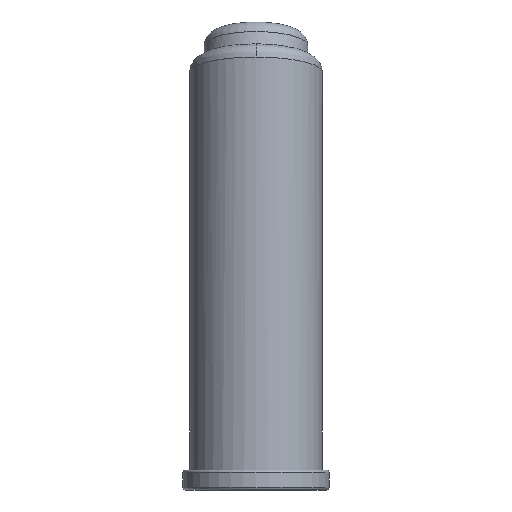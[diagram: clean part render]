
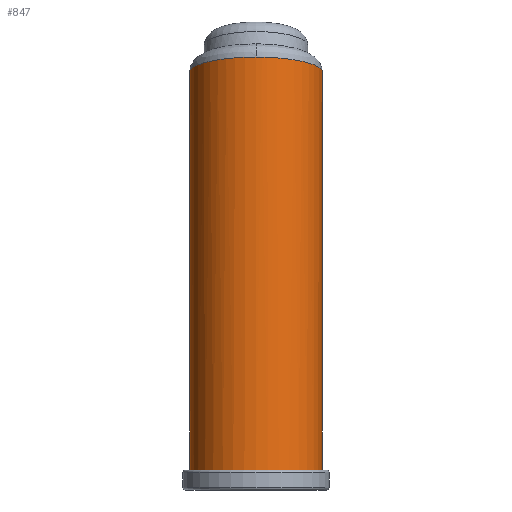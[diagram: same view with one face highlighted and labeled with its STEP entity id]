
A CAD part, front view. The second image highlights one B-rep face of the part: STEP entity #847.
In plain terms, the highlighted cylindrical face has radius 5 mm (diameter 10 mm), a partial arc.
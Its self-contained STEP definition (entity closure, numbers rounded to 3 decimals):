
#2 = ORIENTED_EDGE ( 'NONE', *, *, #511, .T. ) ;
#53 = EDGE_CURVE ( 'NONE', #1504, #2639, #996, .T. ) ;
#62 = CARTESIAN_POINT ( 'NONE',  ( -5., 0., 26. ) ) ;
#65 = CARTESIAN_POINT ( 'NONE',  ( -5., 0., 31.445 ) ) ;
#250 = VECTOR ( 'NONE', #2723, 1000. ) ;
#409 = CARTESIAN_POINT ( 'NONE',  ( 0., 0., 26. ) ) ;
#511 = EDGE_CURVE ( 'NONE', #1823, #950, #1549, .T. ) ;
#523 = CARTESIAN_POINT ( 'NONE',  ( 5., 0., 26. ) ) ;
#569 = AXIS2_PLACEMENT_3D ( 'NONE', #409, #612, #2188 ) ;
#612 = DIRECTION ( 'NONE',  ( 0., 0., -1. ) ) ;
#735 = CARTESIAN_POINT ( 'NONE',  ( 5., -2.929, 32.117 ) ) ;
#847 = ADVANCED_FACE ( 'NONE', ( #1233 ), #1230, .T. ) ;
#892 = ORIENTED_EDGE ( 'NONE', *, *, #2201, .T. ) ;
#905 = DIRECTION ( 'NONE',  ( 0., 0., -1. ) ) ;
#940 = CARTESIAN_POINT ( 'NONE',  ( 0., -5., 32.592 ) ) ;
#950 = VERTEX_POINT ( 'NONE', #1552 ) ;
#996 =( BOUNDED_CURVE ( )  B_SPLINE_CURVE ( 3, ( #1405, #735, #2534, #1632 ),
 .UNSPECIFIED., .F., .F. ) 
 B_SPLINE_CURVE_WITH_KNOTS ( ( 4, 4 ),
 ( 4.712, 6.283 ),
 .UNSPECIFIED. ) 
 CURVE ( )  GEOMETRIC_REPRESENTATION_ITEM ( )  RATIONAL_B_SPLINE_CURVE ( ( 1., 0.805, 0.805, 1. ) ) 
 REPRESENTATION_ITEM ( '' )  );
#1021 = DIRECTION ( 'NONE',  ( 0., 0., 1. ) ) ;
#1040 = EDGE_CURVE ( 'NONE', #2639, #1823, #1929, .T. ) ;
#1058 = ORIENTED_EDGE ( 'NONE', *, *, #2702, .F. ) ;
#1088 = CARTESIAN_POINT ( 'NONE',  ( 0., -5., 32.592 ) ) ;
#1230 = CYLINDRICAL_SURFACE ( 'NONE', #569, 5. ) ;
#1233 = FACE_OUTER_BOUND ( 'NONE', #2346, .T. ) ;
#1244 = DIRECTION ( 'NONE',  ( 1., 0., 0. ) ) ;
#1405 = CARTESIAN_POINT ( 'NONE',  ( 5., 0., 31.445 ) ) ;
#1473 = CARTESIAN_POINT ( 'NONE',  ( 0., 0., 1.5 ) ) ;
#1504 = VERTEX_POINT ( 'NONE', #1568 ) ;
#1549 = LINE ( 'NONE', #62, #2066 ) ;
#1552 = CARTESIAN_POINT ( 'NONE',  ( -5., 0., 1.5 ) ) ;
#1568 = CARTESIAN_POINT ( 'NONE',  ( 5., 0., 31.445 ) ) ;
#1604 = CARTESIAN_POINT ( 'NONE',  ( -2.929, -5., 32.592 ) ) ;
#1632 = CARTESIAN_POINT ( 'NONE',  ( 0., -5., 32.592 ) ) ;
#1823 = VERTEX_POINT ( 'NONE', #2478 ) ;
#1929 =( BOUNDED_CURVE ( )  B_SPLINE_CURVE ( 3, ( #940, #1604, #2483, #65 ),
 .UNSPECIFIED., .F., .F. ) 
 B_SPLINE_CURVE_WITH_KNOTS ( ( 4, 4 ),
 ( 0., 1.571 ),
 .UNSPECIFIED. ) 
 CURVE ( )  GEOMETRIC_REPRESENTATION_ITEM ( )  RATIONAL_B_SPLINE_CURVE ( ( 1., 0.805, 0.805, 1. ) ) 
 REPRESENTATION_ITEM ( '' )  );
#2016 = LINE ( 'NONE', #523, #250 ) ;
#2057 = CIRCLE ( 'NONE', #2390, 5. ) ;
#2066 = VECTOR ( 'NONE', #905, 1000. ) ;
#2188 = DIRECTION ( 'NONE',  ( -1., 0., 0. ) ) ;
#2201 = EDGE_CURVE ( 'NONE', #950, #2672, #2057, .T. ) ;
#2235 = ORIENTED_EDGE ( 'NONE', *, *, #53, .T. ) ;
#2346 = EDGE_LOOP ( 'NONE', ( #1058, #2235, #2683, #2, #892 ) ) ;
#2390 = AXIS2_PLACEMENT_3D ( 'NONE', #1473, #1021, #1244 ) ;
#2478 = CARTESIAN_POINT ( 'NONE',  ( -5., 0., 31.445 ) ) ;
#2483 = CARTESIAN_POINT ( 'NONE',  ( -5., -2.929, 32.117 ) ) ;
#2521 = CARTESIAN_POINT ( 'NONE',  ( 5., 0., 1.5 ) ) ;
#2534 = CARTESIAN_POINT ( 'NONE',  ( 2.929, -5., 32.592 ) ) ;
#2639 = VERTEX_POINT ( 'NONE', #1088 ) ;
#2672 = VERTEX_POINT ( 'NONE', #2521 ) ;
#2683 = ORIENTED_EDGE ( 'NONE', *, *, #1040, .T. ) ;
#2702 = EDGE_CURVE ( 'NONE', #1504, #2672, #2016, .T. ) ;
#2723 = DIRECTION ( 'NONE',  ( 0., 0., -1. ) ) ;
